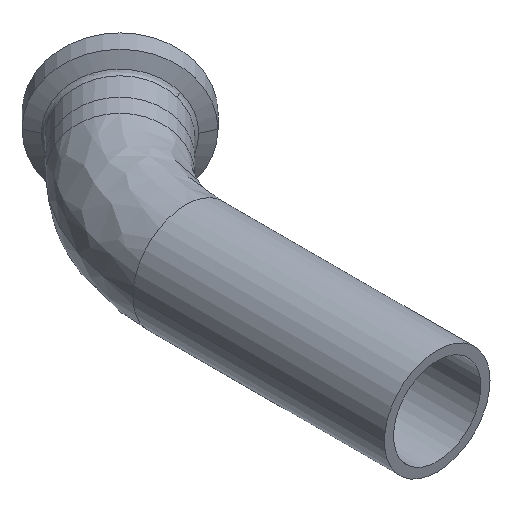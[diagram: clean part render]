
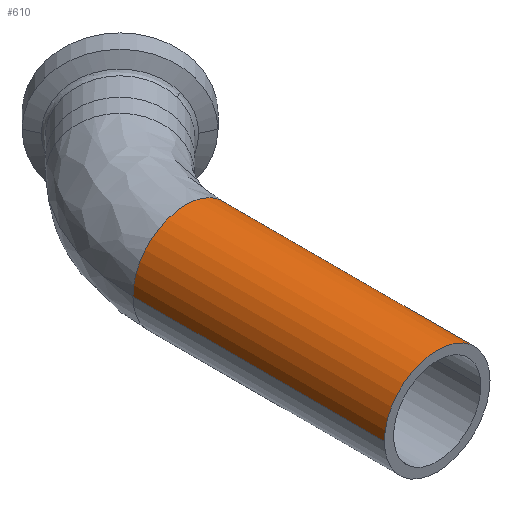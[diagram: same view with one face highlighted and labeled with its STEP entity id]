
A CAD part, isometric view. The second image highlights one B-rep face of the part: STEP entity #610.
In plain terms, the highlighted cylindrical face has radius 9.525 mm (diameter 19.05 mm), a partial arc.
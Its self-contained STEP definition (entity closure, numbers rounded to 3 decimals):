
#9 = DIRECTION ( 'NONE',  ( 0., -1., 0. ) ) ;
#32 = CARTESIAN_POINT ( 'NONE',  ( 0., 0., 0. ) ) ;
#57 = ORIENTED_EDGE ( 'NONE', *, *, #620, .T. ) ;
#68 = DIRECTION ( 'NONE',  ( 0., -1., 0. ) ) ;
#84 = ORIENTED_EDGE ( 'NONE', *, *, #727, .T. ) ;
#92 = VERTEX_POINT ( 'NONE', #141 ) ;
#122 = CARTESIAN_POINT ( 'NONE',  ( 9.525, 45.353, 0. ) ) ;
#125 = DIRECTION ( 'NONE',  ( 1., 0., 0. ) ) ;
#141 = CARTESIAN_POINT ( 'NONE',  ( 9.525, 45.353, 0. ) ) ;
#176 = DIRECTION ( 'NONE',  ( 0., -1., 0. ) ) ;
#212 = EDGE_LOOP ( 'NONE', ( #57, #666, #84, #566 ) ) ;
#269 = VERTEX_POINT ( 'NONE', #934 ) ;
#276 = CIRCLE ( 'NONE', #1175, 9.525 ) ;
#394 = CYLINDRICAL_SURFACE ( 'NONE', #1045, 9.525 ) ;
#462 = FACE_OUTER_BOUND ( 'NONE', #212, .T. ) ;
#504 = CARTESIAN_POINT ( 'NONE',  ( 0., 45.353, 0. ) ) ;
#529 = EDGE_CURVE ( 'NONE', #92, #1276, #1289, .T. ) ;
#566 = ORIENTED_EDGE ( 'NONE', *, *, #529, .F. ) ;
#608 = DIRECTION ( 'NONE',  ( 1., 0., 0. ) ) ;
#610 = ADVANCED_FACE ( 'NONE', ( #462 ), #394, .T. ) ;
#620 = EDGE_CURVE ( 'NONE', #92, #1075, #276, .T. ) ;
#628 = CIRCLE ( 'NONE', #793, 9.525 ) ;
#666 = ORIENTED_EDGE ( 'NONE', *, *, #817, .T. ) ;
#682 = CARTESIAN_POINT ( 'NONE',  ( -9.525, 45.353, 0. ) ) ;
#727 = EDGE_CURVE ( 'NONE', #269, #1276, #628, .T. ) ;
#762 = DIRECTION ( 'NONE',  ( 0., 1., 0. ) ) ;
#779 = VECTOR ( 'NONE', #9, 1000. ) ;
#793 = AXIS2_PLACEMENT_3D ( 'NONE', #32, #762, #125 ) ;
#817 = EDGE_CURVE ( 'NONE', #1075, #269, #1041, .T. ) ;
#925 = CARTESIAN_POINT ( 'NONE',  ( -9.525, 45.353, 0. ) ) ;
#934 = CARTESIAN_POINT ( 'NONE',  ( -9.525, 0., 0. ) ) ;
#1000 = DIRECTION ( 'NONE',  ( 1., 0., 0. ) ) ;
#1041 = LINE ( 'NONE', #682, #1268 ) ;
#1045 = AXIS2_PLACEMENT_3D ( 'NONE', #1093, #176, #1000 ) ;
#1075 = VERTEX_POINT ( 'NONE', #925 ) ;
#1093 = CARTESIAN_POINT ( 'NONE',  ( 0., 45.353, 0. ) ) ;
#1134 = CARTESIAN_POINT ( 'NONE',  ( 9.525, 0., 0. ) ) ;
#1175 = AXIS2_PLACEMENT_3D ( 'NONE', #504, #1205, #608 ) ;
#1205 = DIRECTION ( 'NONE',  ( 0., -1., 0. ) ) ;
#1268 = VECTOR ( 'NONE', #68, 1000. ) ;
#1276 = VERTEX_POINT ( 'NONE', #1134 ) ;
#1289 = LINE ( 'NONE', #122, #779 ) ;
